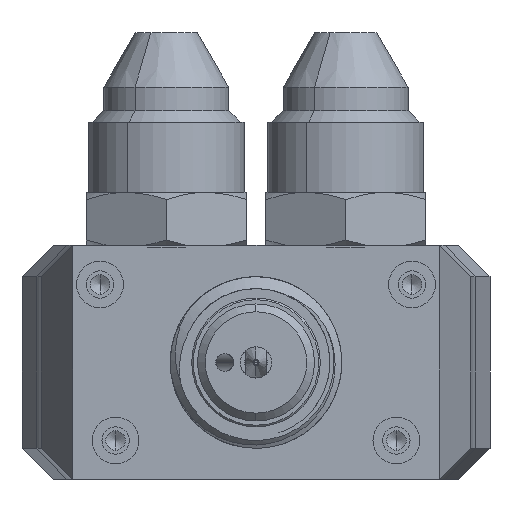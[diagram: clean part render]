
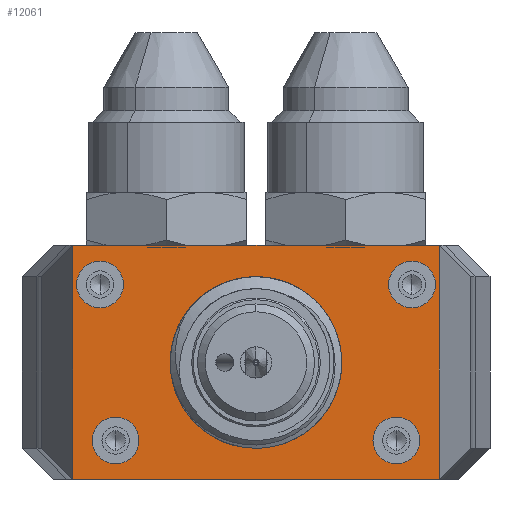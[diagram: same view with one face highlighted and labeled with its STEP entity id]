
A CAD part, front view. The second image highlights one B-rep face of the part: STEP entity #12061.
In plain terms, the highlighted planar face has unit normal (0, -1, 0).
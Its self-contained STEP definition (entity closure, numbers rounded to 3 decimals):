
#665 = CARTESIAN_POINT ( 'NONE',  ( 13.454, -100.02, 1007.602 ) ) ;
#807 = VERTEX_POINT ( 'NONE', #13324 ) ;
#818 = CIRCLE ( 'NONE', #42563, 9. ) ;
#942 = CIRCLE ( 'NONE', #44318, 3. ) ;
#2515 = CARTESIAN_POINT ( 'NONE',  ( 36.95, -100.02, 983.602 ) ) ;
#3676 = EDGE_CURVE ( 'NONE', #46023, #39932, #21111, .T. ) ;
#3747 = DIRECTION ( 'NONE',  ( 1., 0., 0. ) ) ;
#3924 = CIRCLE ( 'NONE', #16799, 3. ) ;
#4038 = CARTESIAN_POINT ( 'NONE',  ( 13.454, -100.02, 989.602 ) ) ;
#5039 = LINE ( 'NONE', #18706, #7490 ) ;
#5344 = ORIENTED_EDGE ( 'NONE', *, *, #22769, .F. ) ;
#5506 = VERTEX_POINT ( 'NONE', #24800 ) ;
#6144 = VECTOR ( 'NONE', #20764, 1000. ) ;
#6331 = DIRECTION ( 'NONE',  ( 0., 0., 1. ) ) ;
#6594 = VERTEX_POINT ( 'NONE', #26109 ) ;
#6988 = CARTESIAN_POINT ( 'NONE',  ( 31.454, -100.02, 988.602 ) ) ;
#6989 = CARTESIAN_POINT ( 'NONE',  ( -4.546, -100.02, 991.602 ) ) ;
#7490 = VECTOR ( 'NONE', #27931, 1000. ) ;
#7738 = EDGE_CURVE ( 'NONE', #6594, #10481, #10528, .T. ) ;
#7972 = DIRECTION ( 'NONE',  ( 0., 1., 0. ) ) ;
#8233 = AXIS2_PLACEMENT_3D ( 'NONE', #13398, #39555, #9865 ) ;
#8345 = DIRECTION ( 'NONE',  ( 0., 0., 1. ) ) ;
#8376 = EDGE_LOOP ( 'NONE', ( #45840, #35322 ) ) ;
#8596 = CARTESIAN_POINT ( 'NONE',  ( -4.546, -100.02, 988.602 ) ) ;
#9372 = CARTESIAN_POINT ( 'NONE',  ( 36.95, -100.02, 983.602 ) ) ;
#9843 = ORIENTED_EDGE ( 'NONE', *, *, #31668, .F. ) ;
#9865 = DIRECTION ( 'NONE',  ( 0., 0., 1. ) ) ;
#10481 = VERTEX_POINT ( 'NONE', #24615 ) ;
#10528 = CIRCLE ( 'NONE', #46693, 3. ) ;
#10562 = CARTESIAN_POINT ( 'NONE',  ( 33.454, -100.02, 1008.602 ) ) ;
#11978 = EDGE_LOOP ( 'NONE', ( #29423, #38473 ) ) ;
#12061 = ADVANCED_FACE ( 'NONE', ( #33957, #45271, #18117, #22141, #45517, #21899 ), #26676, .F. ) ;
#12663 = DIRECTION ( 'NONE',  ( 0., 0., 1. ) ) ;
#12817 = EDGE_LOOP ( 'NONE', ( #18565, #13172 ) ) ;
#13026 = LINE ( 'NONE', #39661, #18528 ) ;
#13172 = ORIENTED_EDGE ( 'NONE', *, *, #38591, .T. ) ;
#13324 = CARTESIAN_POINT ( 'NONE',  ( -10.043, -100.02, 1013.602 ) ) ;
#13398 = CARTESIAN_POINT ( 'NONE',  ( 13.454, -100.02, 998.602 ) ) ;
#13563 = DIRECTION ( 'NONE',  ( 0., 0., 1. ) ) ;
#14159 = VERTEX_POINT ( 'NONE', #48742 ) ;
#14210 = EDGE_CURVE ( 'NONE', #5506, #23822, #3924, .T. ) ;
#14329 = DIRECTION ( 'NONE',  ( 0., 1., 0. ) ) ;
#15342 = CARTESIAN_POINT ( 'NONE',  ( 13.454, -100.02, 998.602 ) ) ;
#16135 = ORIENTED_EDGE ( 'NONE', *, *, #31555, .T. ) ;
#16217 = VERTEX_POINT ( 'NONE', #44384 ) ;
#16403 = EDGE_CURVE ( 'NONE', #41053, #37728, #23800, .T. ) ;
#16780 = EDGE_CURVE ( 'NONE', #10481, #6594, #39859, .T. ) ;
#16799 = AXIS2_PLACEMENT_3D ( 'NONE', #36452, #48007, #13563 ) ;
#16942 = LINE ( 'NONE', #9372, #22742 ) ;
#17327 = CARTESIAN_POINT ( 'NONE',  ( 36.95, -100.02, 1013.602 ) ) ;
#17481 = LINE ( 'NONE', #43387, #6144 ) ;
#17577 = VERTEX_POINT ( 'NONE', #17327 ) ;
#17739 = CARTESIAN_POINT ( 'NONE',  ( -4.546, -100.02, 985.602 ) ) ;
#17964 = CARTESIAN_POINT ( 'NONE',  ( -6.546, -100.02, 1008.602 ) ) ;
#18017 = CIRCLE ( 'NONE', #26868, 3. ) ;
#18117 = FACE_BOUND ( 'NONE', #32489, .T. ) ;
#18158 = ORIENTED_EDGE ( 'NONE', *, *, #16780, .T. ) ;
#18457 = DIRECTION ( 'NONE',  ( 0., 1., 0. ) ) ;
#18528 = VECTOR ( 'NONE', #25084, 1000. ) ;
#18565 = ORIENTED_EDGE ( 'NONE', *, *, #14210, .T. ) ;
#18706 = CARTESIAN_POINT ( 'NONE',  ( -10.043, -100.02, 983.602 ) ) ;
#19236 = EDGE_CURVE ( 'NONE', #37728, #41053, #44127, .T. ) ;
#19278 = EDGE_LOOP ( 'NONE', ( #5344, #16135, #22590, #9843 ) ) ;
#19836 = CARTESIAN_POINT ( 'NONE',  ( 33.454, -100.02, 1005.602 ) ) ;
#20461 = DIRECTION ( 'NONE',  ( 0., 1., 0. ) ) ;
#20764 = DIRECTION ( 'NONE',  ( -1., 0., 0. ) ) ;
#21111 = CIRCLE ( 'NONE', #8233, 9. ) ;
#21871 = EDGE_CURVE ( 'NONE', #49608, #14159, #47957, .T. ) ;
#21899 = FACE_OUTER_BOUND ( 'NONE', #19278, .T. ) ;
#22141 = FACE_BOUND ( 'NONE', #11978, .T. ) ;
#22590 = ORIENTED_EDGE ( 'NONE', *, *, #28723, .T. ) ;
#22742 = VECTOR ( 'NONE', #12663, 1000. ) ;
#22769 = EDGE_CURVE ( 'NONE', #36315, #16217, #17481, .T. ) ;
#22992 = CARTESIAN_POINT ( 'NONE',  ( -4.546, -100.02, 988.602 ) ) ;
#23800 = CIRCLE ( 'NONE', #45475, 3. ) ;
#23822 = VERTEX_POINT ( 'NONE', #19836 ) ;
#24615 = CARTESIAN_POINT ( 'NONE',  ( 31.454, -100.02, 985.602 ) ) ;
#24800 = CARTESIAN_POINT ( 'NONE',  ( 33.454, -100.02, 1011.602 ) ) ;
#25084 = DIRECTION ( 'NONE',  ( -1., 0., 0. ) ) ;
#26109 = CARTESIAN_POINT ( 'NONE',  ( 31.454, -100.02, 991.602 ) ) ;
#26157 = DIRECTION ( 'NONE',  ( 0., 1., 0. ) ) ;
#26676 = PLANE ( 'NONE',  #37612 ) ;
#26720 = DIRECTION ( 'NONE',  ( 0., 1., 0. ) ) ;
#26868 = AXIS2_PLACEMENT_3D ( 'NONE', #45119, #48635, #29532 ) ;
#27726 = ORIENTED_EDGE ( 'NONE', *, *, #21871, .T. ) ;
#27931 = DIRECTION ( 'NONE',  ( 0., 0., 1. ) ) ;
#28278 = EDGE_CURVE ( 'NONE', #39932, #46023, #818, .T. ) ;
#28723 = EDGE_CURVE ( 'NONE', #17577, #807, #13026, .T. ) ;
#29423 = ORIENTED_EDGE ( 'NONE', *, *, #16403, .T. ) ;
#29532 = DIRECTION ( 'NONE',  ( 0., 0., 1. ) ) ;
#30029 = DIRECTION ( 'NONE',  ( 0., 0., 1. ) ) ;
#31555 = EDGE_CURVE ( 'NONE', #36315, #17577, #16942, .T. ) ;
#31668 = EDGE_CURVE ( 'NONE', #16217, #807, #5039, .T. ) ;
#31843 = AXIS2_PLACEMENT_3D ( 'NONE', #37510, #26720, #38257 ) ;
#32489 = EDGE_LOOP ( 'NONE', ( #33457, #27726 ) ) ;
#32691 = EDGE_CURVE ( 'NONE', #14159, #49608, #18017, .T. ) ;
#33457 = ORIENTED_EDGE ( 'NONE', *, *, #32691, .T. ) ;
#33957 = FACE_BOUND ( 'NONE', #12817, .T. ) ;
#35322 = ORIENTED_EDGE ( 'NONE', *, *, #3676, .F. ) ;
#36315 = VERTEX_POINT ( 'NONE', #2515 ) ;
#36452 = CARTESIAN_POINT ( 'NONE',  ( 33.454, -100.02, 1008.602 ) ) ;
#36508 = ORIENTED_EDGE ( 'NONE', *, *, #7738, .T. ) ;
#37510 = CARTESIAN_POINT ( 'NONE',  ( 31.454, -100.02, 988.602 ) ) ;
#37530 = DIRECTION ( 'NONE',  ( 0., -1., 0. ) ) ;
#37612 = AXIS2_PLACEMENT_3D ( 'NONE', #15342, #26157, #3747 ) ;
#37680 = DIRECTION ( 'NONE',  ( 0., 0., 1. ) ) ;
#37728 = VERTEX_POINT ( 'NONE', #17739 ) ;
#38257 = DIRECTION ( 'NONE',  ( 0., 0., 1. ) ) ;
#38473 = ORIENTED_EDGE ( 'NONE', *, *, #19236, .T. ) ;
#38591 = EDGE_CURVE ( 'NONE', #23822, #5506, #942, .T. ) ;
#38661 = EDGE_LOOP ( 'NONE', ( #36508, #18158 ) ) ;
#39555 = DIRECTION ( 'NONE',  ( 0., -1., 0. ) ) ;
#39661 = CARTESIAN_POINT ( 'NONE',  ( 13.454, -100.02, 1013.602 ) ) ;
#39792 = DIRECTION ( 'NONE',  ( 0., 0., 1. ) ) ;
#39859 = CIRCLE ( 'NONE', #31843, 3. ) ;
#39932 = VERTEX_POINT ( 'NONE', #665 ) ;
#40725 = DIRECTION ( 'NONE',  ( 0., 0., 1. ) ) ;
#40917 = AXIS2_PLACEMENT_3D ( 'NONE', #8596, #42805, #8345 ) ;
#41053 = VERTEX_POINT ( 'NONE', #6989 ) ;
#42563 = AXIS2_PLACEMENT_3D ( 'NONE', #44826, #37530, #6331 ) ;
#42805 = DIRECTION ( 'NONE',  ( 0., 1., 0. ) ) ;
#43387 = CARTESIAN_POINT ( 'NONE',  ( 13.454, -100.02, 983.602 ) ) ;
#44127 = CIRCLE ( 'NONE', #40917, 3. ) ;
#44318 = AXIS2_PLACEMENT_3D ( 'NONE', #10562, #14329, #40725 ) ;
#44384 = CARTESIAN_POINT ( 'NONE',  ( -10.043, -100.02, 983.602 ) ) ;
#44647 = AXIS2_PLACEMENT_3D ( 'NONE', #17964, #18457, #30029 ) ;
#44826 = CARTESIAN_POINT ( 'NONE',  ( 13.454, -100.02, 998.602 ) ) ;
#45119 = CARTESIAN_POINT ( 'NONE',  ( -6.546, -100.02, 1008.602 ) ) ;
#45271 = FACE_BOUND ( 'NONE', #38661, .T. ) ;
#45475 = AXIS2_PLACEMENT_3D ( 'NONE', #22992, #20461, #39792 ) ;
#45517 = FACE_BOUND ( 'NONE', #8376, .T. ) ;
#45840 = ORIENTED_EDGE ( 'NONE', *, *, #28278, .F. ) ;
#46023 = VERTEX_POINT ( 'NONE', #4038 ) ;
#46693 = AXIS2_PLACEMENT_3D ( 'NONE', #6988, #7972, #37680 ) ;
#47957 = CIRCLE ( 'NONE', #44647, 3. ) ;
#48007 = DIRECTION ( 'NONE',  ( 0., 1., 0. ) ) ;
#48390 = CARTESIAN_POINT ( 'NONE',  ( -6.546, -100.02, 1005.602 ) ) ;
#48635 = DIRECTION ( 'NONE',  ( 0., 1., 0. ) ) ;
#48742 = CARTESIAN_POINT ( 'NONE',  ( -6.546, -100.02, 1011.602 ) ) ;
#49608 = VERTEX_POINT ( 'NONE', #48390 ) ;
